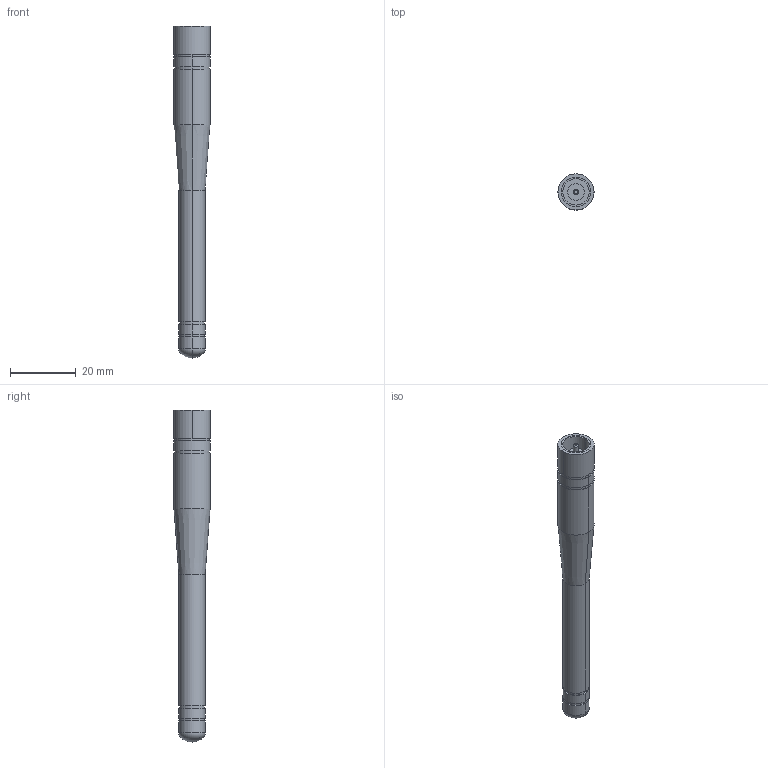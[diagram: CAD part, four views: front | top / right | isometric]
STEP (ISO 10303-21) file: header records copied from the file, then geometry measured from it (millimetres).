
FILE_DESCRIPTION((''),'2;1');
FILE_NAME('X1005625-I9DSMB-DUMMY','2022-08-23T',('jarvayo'),(''),'CREO PARAMETRIC BY PTC INC, 2016130','CREO PARAMETRIC BY PTC INC, 2016130','');
FILE_SCHEMA(('AP203_CONFIGURATION_CONTROLLED_3D_DESIGN_OF_MECHANICAL_PARTS_AND_ASSEMBLIES_MIM_LF { 1 0 10303 403 2 1 2 }'));
Length unit declared in the file: millimetre
Products named in the file (1): X1005625-I9DSMB-DUMMY
Bounding box: 11 x 11 x 101 mm (x, y, z)
Volume: 6560.1 mm3; surface area: 3261.1 mm2
Topology: 2 solids, 2 shells, 53 faces, 104 edges, 65 vertices
Faces by surface type: cylinder 30, plane 15, cone 4, torus 2, sphere 2
Entity records: 2005 total; most frequent: DIRECTION 310, CARTESIAN_POINT 245, ORIENTED_EDGE 204, AXIS2_PLACEMENT_3D 133, PRESENTATION_STYLE_ASSIGNMENT 117, STYLED_ITEM 117, CURVE_STYLE 115, EDGE_CURVE 102
